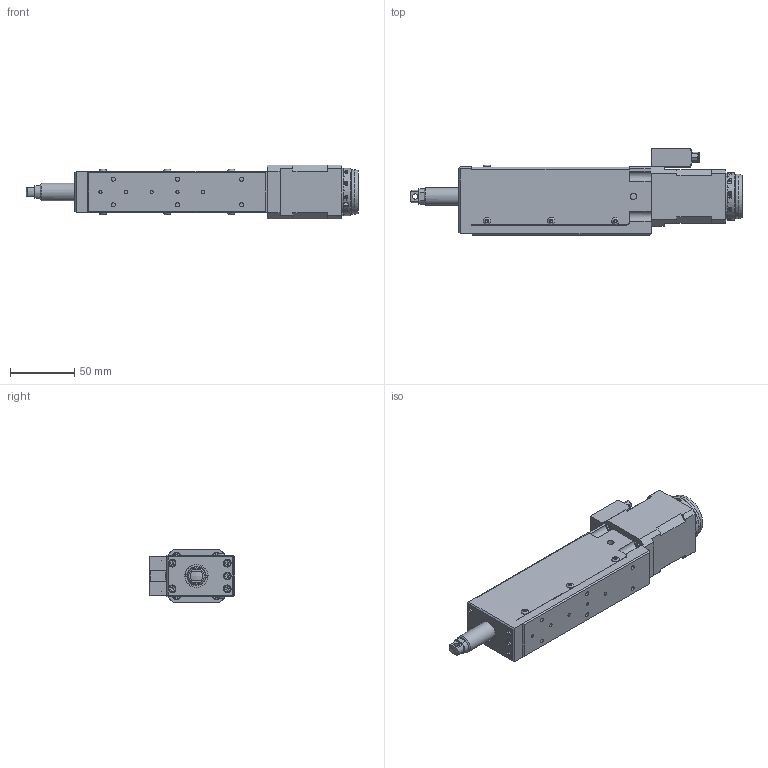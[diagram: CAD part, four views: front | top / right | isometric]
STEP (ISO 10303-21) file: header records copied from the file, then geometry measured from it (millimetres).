
FILE_DESCRIPTION(/* description */ (''),/* implementation_level */ '2;1');
FILE_NAME(/* name */ 'U:\KONSTRUKTORIAI\DOKUMENTACIJA\8\8CMA\8CMA42-2-4247\Step\8CMA42-2-4247 SB.stp',/* time_stamp */ '2018-07-12T08:29:01+03:00',/* author */ ('dsgn32'),/* organization */ (''),/* preprocessor_version */ 'ST-DEVELOPER v15.2',/* originating_system */ 'Autodesk Inventor 2014',/* authorisation */ '');
FILE_SCHEMA (('AUTOMOTIVE_DESIGN { 1 0 10303 214 3 1 1 }'));
Products named in the file (1): 8CMA42-2-4247 SB_Shrinkwrap_1
Bounding box: 258.7 x 67 x 42 mm (x, y, z)
Volume: 349653 mm3; surface area: 91736.2 mm2
Topology: 1 solids, 36 shells, 1702 faces, 4381 edges, 2881 vertices
Faces by surface type: plane 921, cylinder 401, bspline 260, cone 67, torus 43, sphere 10
Full cylindrical faces by diameter (mm): 1 x9, 2.013 x4, 2.459 x16, 2.5 x6, 2.8 x4, 3 x22, 3.242 x7, 3.3 x4, 3.302 x2, 3.4 x13, 3.5 x4, 3.6 x7, 4 x5, 4.2 x1, 4.5 x2, 4.917 x1, 5 x9, 5.5 x14, 5.7 x7, 6 x17, 7 x1, 10 x1, 11.6 x2, 14 x2, 14.6 x1, 15 x8, 18 x2, 19 x8, 21 x1, 22 x2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
Entity records: 116699 total; most frequent: CARTESIAN_POINT 77645, ORIENTED_EDGE 7918, DIRECTION 6705, EDGE_CURVE 3959, VERTEX_POINT 2754, AXIS2_PLACEMENT_3D 2422, EDGE_LOOP 2201, LINE 1861
